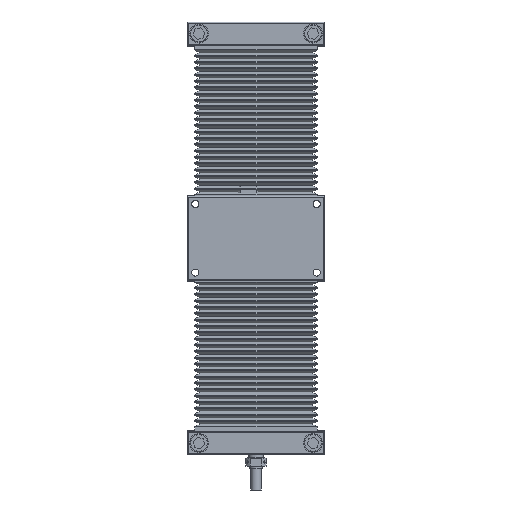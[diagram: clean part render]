
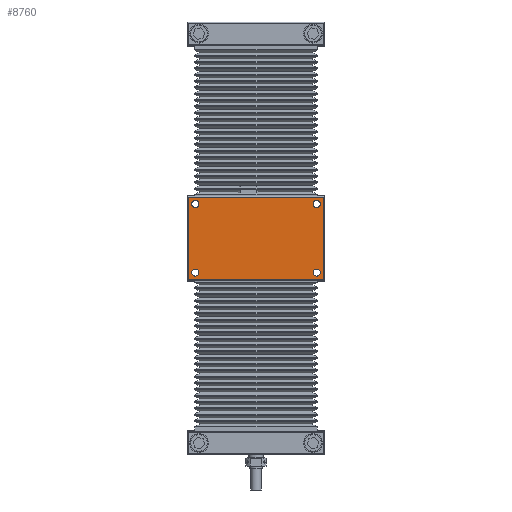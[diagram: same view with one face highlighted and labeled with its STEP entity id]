
A CAD part, front view. The second image highlights one B-rep face of the part: STEP entity #8760.
In plain terms, the highlighted planar face has unit normal (0, -1, 0).
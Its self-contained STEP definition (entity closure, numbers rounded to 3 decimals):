
#82 = EDGE_CURVE ( 'NONE', #38887, #47903, #38082, .T. ) ;
#1516 = CARTESIAN_POINT ( 'NONE',  ( 57.5, -23., 72.5 ) ) ;
#1853 = CARTESIAN_POINT ( 'NONE',  ( -64., -23., 80. ) ) ;
#2599 = CARTESIAN_POINT ( 'NONE',  ( 57.5, -23., 7.5 ) ) ;
#3181 = DIRECTION ( 'NONE',  ( 0., 0., 1. ) ) ;
#3345 = DIRECTION ( 'NONE',  ( 0., 1., 0. ) ) ;
#3501 = CIRCLE ( 'NONE', #15571, 3.4 ) ;
#3560 = ORIENTED_EDGE ( 'NONE', *, *, #22744, .T. ) ;
#4687 = CIRCLE ( 'NONE', #16695, 3.4 ) ;
#4712 = CIRCLE ( 'NONE', #48044, 3.4 ) ;
#5229 = FACE_BOUND ( 'NONE', #17371, .T. ) ;
#5644 = LINE ( 'NONE', #1853, #27832 ) ;
#5684 = CIRCLE ( 'NONE', #33740, 3.4 ) ;
#5769 = CIRCLE ( 'NONE', #36286, 3.4 ) ;
#6137 = VECTOR ( 'NONE', #16323, 1000. ) ;
#6638 = DIRECTION ( 'NONE',  ( 0., 1., 0. ) ) ;
#7599 = CARTESIAN_POINT ( 'NONE',  ( -57.5, -23., 75.9 ) ) ;
#8760 = ADVANCED_FACE ( 'NONE', ( #27589, #34874, #12022, #5229, #46953 ), #35871, .F. ) ;
#9225 = DIRECTION ( 'NONE',  ( 0., 0., 1. ) ) ;
#10278 = CARTESIAN_POINT ( 'NONE',  ( -57.5, -23., 69.1 ) ) ;
#10288 = CARTESIAN_POINT ( 'NONE',  ( 64., -23., 1. ) ) ;
#11319 = CARTESIAN_POINT ( 'NONE',  ( -57.5, -23., 72.5 ) ) ;
#11344 = CARTESIAN_POINT ( 'NONE',  ( -57.5, -23., 10.9 ) ) ;
#12019 = EDGE_CURVE ( 'NONE', #16510, #12600, #13446, .T. ) ;
#12022 = FACE_BOUND ( 'NONE', #15763, .T. ) ;
#12600 = VERTEX_POINT ( 'NONE', #10288 ) ;
#12815 = CARTESIAN_POINT ( 'NONE',  ( -65., -23., 79. ) ) ;
#13019 = DIRECTION ( 'NONE',  ( 0., 0., 1. ) ) ;
#13446 = LINE ( 'NONE', #48119, #14325 ) ;
#14325 = VECTOR ( 'NONE', #22627, 1000. ) ;
#14779 = VERTEX_POINT ( 'NONE', #45998 ) ;
#14927 = EDGE_CURVE ( 'NONE', #49656, #25930, #43481, .T. ) ;
#15178 = CARTESIAN_POINT ( 'NONE',  ( -57.5, -23., 7.5 ) ) ;
#15571 = AXIS2_PLACEMENT_3D ( 'NONE', #15178, #3345, #29987 ) ;
#15763 = EDGE_LOOP ( 'NONE', ( #48768, #43894 ) ) ;
#16323 = DIRECTION ( 'NONE',  ( -1., 0., 0. ) ) ;
#16409 = EDGE_CURVE ( 'NONE', #25930, #16510, #5644, .T. ) ;
#16510 = VERTEX_POINT ( 'NONE', #41987 ) ;
#16695 = AXIS2_PLACEMENT_3D ( 'NONE', #17749, #21513, #9225 ) ;
#17371 = EDGE_LOOP ( 'NONE', ( #35744, #33820 ) ) ;
#17749 = CARTESIAN_POINT ( 'NONE',  ( -57.5, -23., 7.5 ) ) ;
#18464 = VERTEX_POINT ( 'NONE', #46078 ) ;
#19097 = AXIS2_PLACEMENT_3D ( 'NONE', #20552, #23323, #13019 ) ;
#19600 = AXIS2_PLACEMENT_3D ( 'NONE', #37118, #37613, #3181 ) ;
#20059 = EDGE_CURVE ( 'NONE', #44120, #41854, #3501, .T. ) ;
#20552 = CARTESIAN_POINT ( 'NONE',  ( -65., -23., 80. ) ) ;
#21201 = DIRECTION ( 'NONE',  ( 0., 0., -1. ) ) ;
#21477 = CARTESIAN_POINT ( 'NONE',  ( 57.5, -23., 69.1 ) ) ;
#21513 = DIRECTION ( 'NONE',  ( 0., 1., 0. ) ) ;
#21873 = DIRECTION ( 'NONE',  ( 0., 0., 1. ) ) ;
#22604 = DIRECTION ( 'NONE',  ( 0., 1., 0. ) ) ;
#22627 = DIRECTION ( 'NONE',  ( 1., 0., 0. ) ) ;
#22744 = EDGE_CURVE ( 'NONE', #28139, #18464, #5769, .T. ) ;
#23323 = DIRECTION ( 'NONE',  ( 0., 1., 0. ) ) ;
#24462 = EDGE_CURVE ( 'NONE', #12600, #49656, #49357, .T. ) ;
#25930 = VERTEX_POINT ( 'NONE', #30822 ) ;
#27589 = FACE_OUTER_BOUND ( 'NONE', #30708, .T. ) ;
#27652 = CARTESIAN_POINT ( 'NONE',  ( 64., -23., 79. ) ) ;
#27832 = VECTOR ( 'NONE', #21201, 1000. ) ;
#28062 = ORIENTED_EDGE ( 'NONE', *, *, #16409, .T. ) ;
#28139 = VERTEX_POINT ( 'NONE', #21477 ) ;
#28436 = VERTEX_POINT ( 'NONE', #42329 ) ;
#28552 = DIRECTION ( 'NONE',  ( 0., 0., 1. ) ) ;
#28890 = CARTESIAN_POINT ( 'NONE',  ( -57.5, -23., 72.5 ) ) ;
#29256 = EDGE_CURVE ( 'NONE', #18464, #28139, #41264, .T. ) ;
#29987 = DIRECTION ( 'NONE',  ( 0., 0., 1. ) ) ;
#30047 = AXIS2_PLACEMENT_3D ( 'NONE', #28890, #44473, #48478 ) ;
#30708 = EDGE_LOOP ( 'NONE', ( #31531, #28062, #48159, #41355 ) ) ;
#30822 = CARTESIAN_POINT ( 'NONE',  ( -64., -23., 79. ) ) ;
#31531 = ORIENTED_EDGE ( 'NONE', *, *, #14927, .T. ) ;
#33740 = AXIS2_PLACEMENT_3D ( 'NONE', #11319, #22604, #21873 ) ;
#33820 = ORIENTED_EDGE ( 'NONE', *, *, #38522, .T. ) ;
#34874 = FACE_BOUND ( 'NONE', #40599, .T. ) ;
#35744 = ORIENTED_EDGE ( 'NONE', *, *, #40553, .T. ) ;
#35849 = DIRECTION ( 'NONE',  ( 0., 1., 0. ) ) ;
#35871 = PLANE ( 'NONE',  #19097 ) ;
#35898 = EDGE_CURVE ( 'NONE', #41854, #44120, #4687, .T. ) ;
#35993 = EDGE_LOOP ( 'NONE', ( #46431, #3560 ) ) ;
#36060 = CIRCLE ( 'NONE', #44110, 3.4 ) ;
#36178 = CARTESIAN_POINT ( 'NONE',  ( -57.5, -23., 4.1 ) ) ;
#36286 = AXIS2_PLACEMENT_3D ( 'NONE', #1516, #46785, #38983 ) ;
#36348 = CARTESIAN_POINT ( 'NONE',  ( 57.5, -23., 7.5 ) ) ;
#37039 = DIRECTION ( 'NONE',  ( 0., 0., 1. ) ) ;
#37118 = CARTESIAN_POINT ( 'NONE',  ( 57.5, -23., 72.5 ) ) ;
#37613 = DIRECTION ( 'NONE',  ( 0., 1., 0. ) ) ;
#37792 = CARTESIAN_POINT ( 'NONE',  ( 64., -23., 80. ) ) ;
#38039 = DIRECTION ( 'NONE',  ( 0., 0., 1. ) ) ;
#38082 = CIRCLE ( 'NONE', #30047, 3.4 ) ;
#38522 = EDGE_CURVE ( 'NONE', #28436, #14779, #4712, .T. ) ;
#38887 = VERTEX_POINT ( 'NONE', #7599 ) ;
#38983 = DIRECTION ( 'NONE',  ( 0., 0., 1. ) ) ;
#40553 = EDGE_CURVE ( 'NONE', #14779, #28436, #36060, .T. ) ;
#40599 = EDGE_LOOP ( 'NONE', ( #47209, #49379 ) ) ;
#41264 = CIRCLE ( 'NONE', #19600, 3.4 ) ;
#41355 = ORIENTED_EDGE ( 'NONE', *, *, #24462, .T. ) ;
#41854 = VERTEX_POINT ( 'NONE', #36178 ) ;
#41987 = CARTESIAN_POINT ( 'NONE',  ( -64., -23., 1. ) ) ;
#42329 = CARTESIAN_POINT ( 'NONE',  ( 57.5, -23., 4.1 ) ) ;
#43481 = LINE ( 'NONE', #12815, #6137 ) ;
#43894 = ORIENTED_EDGE ( 'NONE', *, *, #45723, .T. ) ;
#44110 = AXIS2_PLACEMENT_3D ( 'NONE', #36348, #35849, #28552 ) ;
#44120 = VERTEX_POINT ( 'NONE', #11344 ) ;
#44473 = DIRECTION ( 'NONE',  ( 0., 1., 0. ) ) ;
#45723 = EDGE_CURVE ( 'NONE', #47903, #38887, #5684, .T. ) ;
#45998 = CARTESIAN_POINT ( 'NONE',  ( 57.5, -23., 10.9 ) ) ;
#46078 = CARTESIAN_POINT ( 'NONE',  ( 57.5, -23., 75.9 ) ) ;
#46431 = ORIENTED_EDGE ( 'NONE', *, *, #29256, .T. ) ;
#46785 = DIRECTION ( 'NONE',  ( 0., 1., 0. ) ) ;
#46953 = FACE_BOUND ( 'NONE', #35993, .T. ) ;
#47209 = ORIENTED_EDGE ( 'NONE', *, *, #20059, .T. ) ;
#47903 = VERTEX_POINT ( 'NONE', #10278 ) ;
#48044 = AXIS2_PLACEMENT_3D ( 'NONE', #2599, #6638, #37039 ) ;
#48119 = CARTESIAN_POINT ( 'NONE',  ( -65., -23., 1. ) ) ;
#48159 = ORIENTED_EDGE ( 'NONE', *, *, #12019, .T. ) ;
#48478 = DIRECTION ( 'NONE',  ( 0., 0., 1. ) ) ;
#48703 = VECTOR ( 'NONE', #38039, 1000. ) ;
#48768 = ORIENTED_EDGE ( 'NONE', *, *, #82, .T. ) ;
#49357 = LINE ( 'NONE', #37792, #48703 ) ;
#49379 = ORIENTED_EDGE ( 'NONE', *, *, #35898, .T. ) ;
#49656 = VERTEX_POINT ( 'NONE', #27652 ) ;
